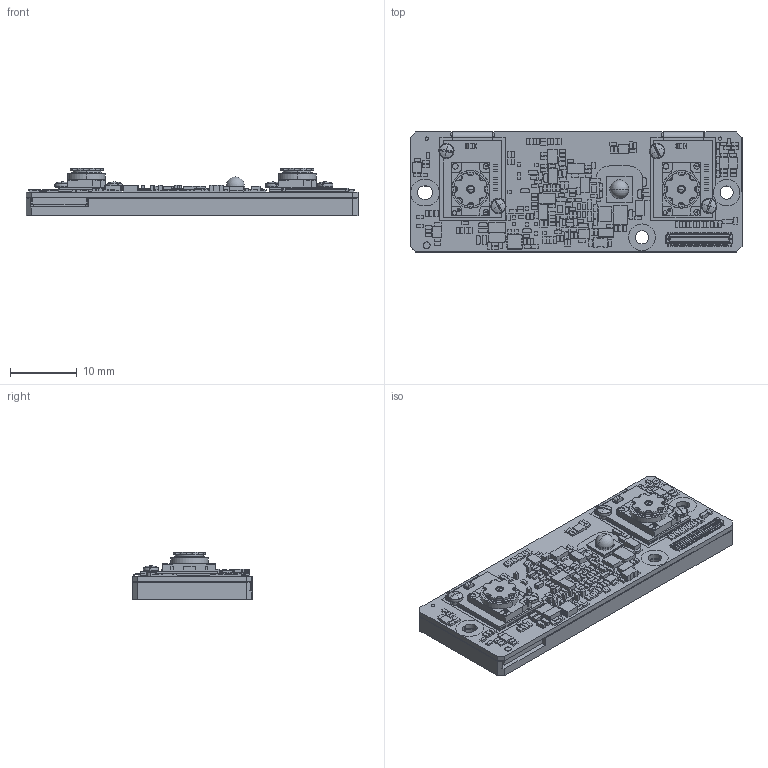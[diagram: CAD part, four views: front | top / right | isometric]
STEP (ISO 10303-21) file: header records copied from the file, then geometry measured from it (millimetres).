
FILE_DESCRIPTION (( 'STEP AP203' ), '1' );
FILE_NAME ('AM5000920_REV03_Oct 06, 2025.step', '2025-10-06T08:50:55', ( '' ), ( '' ), 'SwSTEP 2.0', 'SolidWorks 2023', '' );
FILE_SCHEMA (( 'CONFIG_CONTROL_DESIGN' ));
Length unit declared in the file: millimetre
Products named in the file (14): AS0905304; Epoxy; MEC502129; MEC502125; MEC502128; SFH 4713A FOV; PC0905304; CAM000001; CAM000009; AM5000920_REV03_Oct 06, 2025; 20708-050E; PC0905304_COMPONENTS_22_4_25; SFH 4713A; FAS000477
Assembly tree (16 placements, depth 4):
  AM5000920_REV03_Oct 06, 2025
    AS0905304
      PC0905304
      PC0905304_COMPONENTS_22_4_25
      SFH 4713A FOV
        SFH 4713A
      20708-050E
      Epoxy
    CAM000009
    CAM000001
    MEC502125
    MEC502129
    MEC502128
    FAS000477  x4
Bounding box: 49.8 x 18 x 7.1 mm (x, y, z)
Volume: 3209.6 mm3; surface area: 8476.6 mm2
Topology: 275 solids, 279 shells, 3478 faces, 8440 edges, 5658 vertices
Faces by surface type: plane 2910, cylinder 390, cone 76, torus 46, bspline 38, sphere 18
Entity records: 116757 total; most frequent: CARTESIAN_POINT 35227, ORIENTED_EDGE 16448, DIRECTION 15667, EDGE_CURVE 8224, LINE 7015, VECTOR 7015, VERTEX_POINT 5542, AXIS2_PLACEMENT_3D 4326
